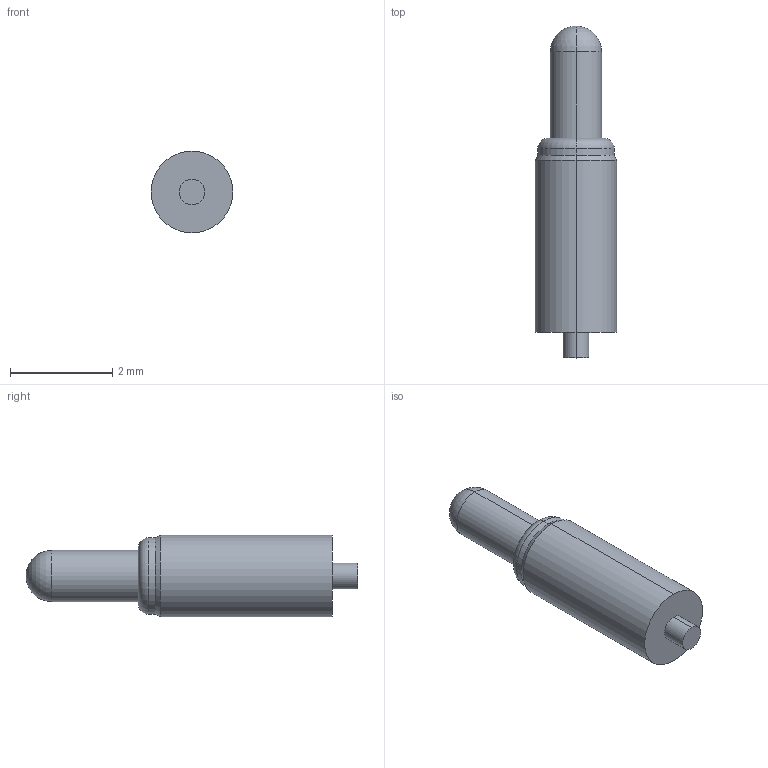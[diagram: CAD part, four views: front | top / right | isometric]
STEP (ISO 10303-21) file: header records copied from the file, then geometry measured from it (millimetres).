
FILE_DESCRIPTION((''),'2;1');
FILE_NAME('PRT0013','2023-05-26T11:04:21',('USER'),(''),'CREO PARAMETRIC BY PTC INC, 2020154','CREO PARAMETRIC BY PTC INC, 2020154','');
FILE_SCHEMA(('CONFIG_CONTROL_DESIGN'));
Length unit declared in the file: millimetre
Products named in the file (1): PRT0013
Bounding box: 1.6 x 6.5 x 1.6 mm (x, y, z)
Volume: 9.2 mm3; surface area: 29.3 mm2
Topology: 1 solids, 1 shells, 17 faces, 34 edges, 19 vertices
Faces by surface type: cylinder 8, plane 3, torus 2, cone 2, sphere 2
Entity records: 470 total; most frequent: DIRECTION 88, CARTESIAN_POINT 68, ORIENTED_EDGE 64, AXIS2_PLACEMENT_3D 39, EDGE_CURVE 32, CIRCLE 22, VERTEX_POINT 19, EDGE_LOOP 19
